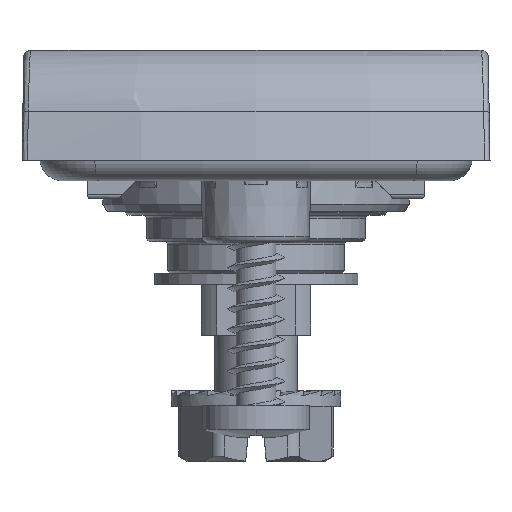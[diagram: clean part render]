
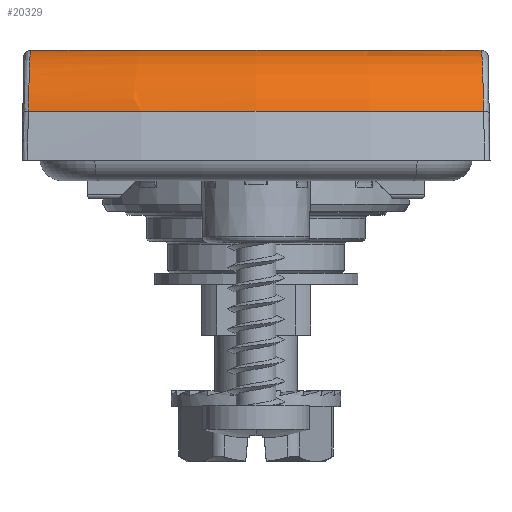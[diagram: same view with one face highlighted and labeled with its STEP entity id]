
A CAD part, front view. The second image highlights one B-rep face of the part: STEP entity #20329.
In plain terms, the highlighted toroidal (fillet/blend) face has major radius 73.252 mm and minor radius 6 mm.
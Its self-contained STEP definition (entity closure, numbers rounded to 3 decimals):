
#200 = CARTESIAN_POINT ( 'NONE',  ( -16.369, -23.4, 8. ) ) ;
#1864 = CARTESIAN_POINT ( 'NONE',  ( -16.491, -28.278, 5.631 ) ) ;
#2002 = CARTESIAN_POINT ( 'NONE',  ( -16.541, -29.298, 3.553 ) ) ;
#2116 = VERTEX_POINT ( 'NONE', #14371 ) ;
#2611 = DIRECTION ( 'NONE',  ( -1., 0., 0. ) ) ;
#4023 = ORIENTED_EDGE ( 'NONE', *, *, #16619, .T. ) ;
#5056 = CARTESIAN_POINT ( 'NONE',  ( -16.514, -28.818, 4.793 ) ) ;
#5363 = CARTESIAN_POINT ( 'NONE',  ( 0., 48., 2. ) ) ;
#5923 = CARTESIAN_POINT ( 'NONE',  ( 16.528, -29.124, 4.197 ) ) ;
#5982 = CARTESIAN_POINT ( 'NONE',  ( 0., 48., 3.553 ) ) ;
#6170 = B_SPLINE_CURVE_WITH_KNOTS ( 'NONE', 3,
 ( #200, #21270, #33378, #13991, #8411, #20534, #8212, #14560, #26090, #12300, #1864, #26478, #5056, #24423, #32243, #26694 ),
 .UNSPECIFIED., .F., .F.,
 ( 4, 2, 2, 2, 2, 2, 2, 4 ),
 ( 0., 0.002, 0.003, 0.004, 0.005, 0.006, 0.007, 0.008 ),
 .UNSPECIFIED. ) ;
#7333 = FACE_OUTER_BOUND ( 'NONE', #12326, .T. ) ;
#8212 = CARTESIAN_POINT ( 'NONE',  ( -16.446, -26.832, 6.978 ) ) ;
#8296 = CARTESIAN_POINT ( 'NONE',  ( 16.469, -27.643, 6.371 ) ) ;
#8411 = CARTESIAN_POINT ( 'NONE',  ( -16.423, -25.97, 7.455 ) ) ;
#8678 = CARTESIAN_POINT ( 'NONE',  ( 16.381, -24.067, 8. ) ) ;
#8919 = DIRECTION ( 'NONE',  ( 1., 0., 0. ) ) ;
#10252 = ORIENTED_EDGE ( 'NONE', *, *, #15360, .F. ) ;
#10615 = CIRCLE ( 'NONE', #37316, 73.252 ) ;
#11699 = DIRECTION ( 'NONE',  ( 0., 0., 1. ) ) ;
#12300 = CARTESIAN_POINT ( 'NONE',  ( -16.484, -28.07, 5.886 ) ) ;
#12326 = EDGE_LOOP ( 'NONE', ( #10252, #23435, #31040, #4023 ) ) ;
#13991 = CARTESIAN_POINT ( 'NONE',  ( -16.416, -25.664, 7.584 ) ) ;
#14128 = DIRECTION ( 'NONE',  ( 0., 0., -1. ) ) ;
#14371 = CARTESIAN_POINT ( 'NONE',  ( -16.369, -23.4, 8. ) ) ;
#14560 = CARTESIAN_POINT ( 'NONE',  ( -16.461, -27.364, 6.581 ) ) ;
#14648 = CARTESIAN_POINT ( 'NONE',  ( 16.514, -28.849, 4.794 ) ) ;
#15360 = EDGE_CURVE ( 'NONE', #2116, #33879, #10615, .T. ) ;
#16619 = EDGE_CURVE ( 'NONE', #35738, #33879, #35057, .T. ) ;
#17706 = VERTEX_POINT ( 'NONE', #2002 ) ;
#19056 = EDGE_CURVE ( 'NONE', #35738, #17706, #28050, .T. ) ;
#20329 = ADVANCED_FACE ( 'NONE', ( #7333 ), #21146, .T. ) ;
#20426 = CARTESIAN_POINT ( 'NONE',  ( 16.438, -26.578, 7.17 ) ) ;
#20521 = AXIS2_PLACEMENT_3D ( 'NONE', #5363, #11699, #8919 ) ;
#20534 = CARTESIAN_POINT ( 'NONE',  ( -16.438, -26.553, 7.152 ) ) ;
#21146 = TOROIDAL_SURFACE ( 'NONE', #20521, 73.252, 6. ) ;
#21270 = CARTESIAN_POINT ( 'NONE',  ( -16.381, -24.067, 8. ) ) ;
#22911 = CARTESIAN_POINT ( 'NONE',  ( 16.369, -23.4, 8. ) ) ;
#23435 = ORIENTED_EDGE ( 'NONE', *, *, #24217, .T. ) ;
#24217 = EDGE_CURVE ( 'NONE', #2116, #17706, #6170, .T. ) ;
#24423 = CARTESIAN_POINT ( 'NONE',  ( -16.528, -29.097, 4.189 ) ) ;
#25627 = CARTESIAN_POINT ( 'NONE',  ( 16.369, -23.4, 8. ) ) ;
#26090 = CARTESIAN_POINT ( 'NONE',  ( -16.469, -27.615, 6.36 ) ) ;
#26478 = CARTESIAN_POINT ( 'NONE',  ( -16.506, -28.652, 5.085 ) ) ;
#26694 = CARTESIAN_POINT ( 'NONE',  ( -16.541, -29.298, 3.553 ) ) ;
#26772 = CARTESIAN_POINT ( 'NONE',  ( 16.395, -24.731, 7.893 ) ) ;
#27196 = CARTESIAN_POINT ( 'NONE',  ( 0., 48., 8. ) ) ;
#28050 = CIRCLE ( 'NONE', #35035, 79.048 ) ;
#29748 = CARTESIAN_POINT ( 'NONE',  ( 16.541, -29.298, 3.553 ) ) ;
#31040 = ORIENTED_EDGE ( 'NONE', *, *, #19056, .F. ) ;
#32243 = CARTESIAN_POINT ( 'NONE',  ( -16.535, -29.211, 3.875 ) ) ;
#32920 = CARTESIAN_POINT ( 'NONE',  ( 16.484, -28.099, 5.895 ) ) ;
#33339 = CARTESIAN_POINT ( 'NONE',  ( 16.541, -29.298, 3.553 ) ) ;
#33378 = CARTESIAN_POINT ( 'NONE',  ( -16.394, -24.716, 7.896 ) ) ;
#33747 = DIRECTION ( 'NONE',  ( 0., 0., 1. ) ) ;
#33879 = VERTEX_POINT ( 'NONE', #22911 ) ;
#35035 = AXIS2_PLACEMENT_3D ( 'NONE', #5982, #14128, #2611 ) ;
#35057 = B_SPLINE_CURVE_WITH_KNOTS ( 'NONE', 3,
 ( #29748, #5923, #14648, #32920, #8296, #20426, #35905, #26772, #8678, #25627 ),
 .UNSPECIFIED., .F., .F.,
 ( 4, 2, 2, 2, 4 ),
 ( 0., 0.002, 0.004, 0.006, 0.008 ),
 .UNSPECIFIED. ) ;
#35738 = VERTEX_POINT ( 'NONE', #33339 ) ;
#35905 = CARTESIAN_POINT ( 'NONE',  ( 16.423, -25.993, 7.474 ) ) ;
#36935 = DIRECTION ( 'NONE',  ( 1., 0., 0. ) ) ;
#37316 = AXIS2_PLACEMENT_3D ( 'NONE', #27196, #33747, #36935 ) ;
